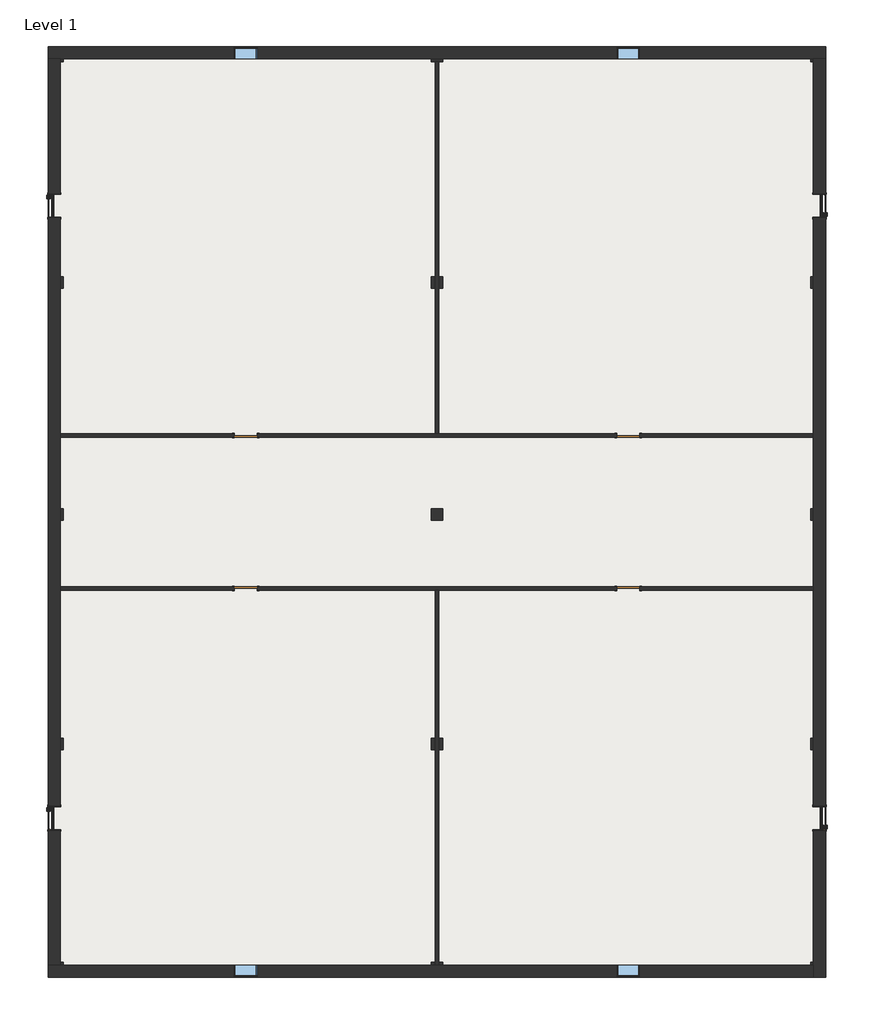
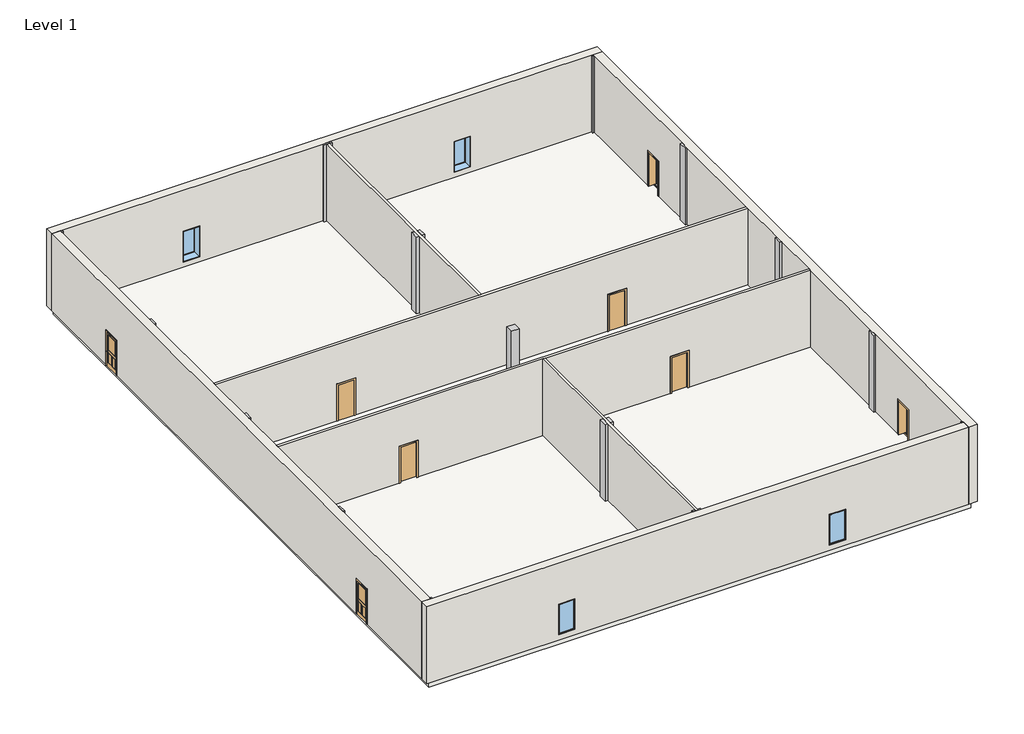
# One storey: 15 columns, 8 doors, 8 walls, 4 windows, 1 slab.
"""IFC4 building model written with IfcOpenShell, lengths in millimetres."""

from ifc_helpers import new_model, si_unit, frame, origin, origin_with_axes, place, context, project, spatial, polyline, outline, extrude, faceted_brep, transform, mapped, element, save
from components import column_01934044, door_9a8c5ecc, door_c6edcd30, window_ebccf9a6

model = new_model("IFC4")

# Units and contexts
model_context = context("Model", 3, world=origin())
ifc_project = project(units=[si_unit("LENGTHUNIT", "METRE", prefix="MILLI")], contexts=[model_context])

# Site, building, storey
site = spatial("IfcSite", under=ifc_project)
building = spatial("IfcBuilding", under=site)
storey = spatial("IfcBuildingStorey", under=building, Name="Level 1", Elevation=0.0)

# Columns
placement = place(None, origin())
element("IfcColumn", 1, ObjectType="Rectangular Column : 18\" x 18\"", at=placement, inside=storey, context=model_context, shape_type="SweptSolid", body=[
    extrude(outline(polyline([(-14834.4974435, 17225.7425957), (-14834.4974435, 17117.7925957), (-14942.4474435, 17117.7925957), (-14942.4474435, 17225.7425957), (-14834.4974435, 17225.7425957)])), origin_with_axes(), (0.0, 0.0, 1.0), 4572.0),
])
element("IfcColumn", 2, ObjectType="Rectangular Column : 18\" x 18\"", at=placement, inside=storey, context=model_context, shape_type="SweptSolid", body=[
    extrude(outline(polyline([(14934.3025565, 17117.7925957), (14934.3025565, 17225.7425957), (15042.2525565, 17225.7425957), (15042.2525565, 17117.7925957), (14934.3025565, 17117.7925957)])), origin_with_axes(), (0.0, 0.0, 1.0), 4572.0),
])
element("IfcColumn", 3, ObjectType="Rectangular Column : 18\" x 18\"", at=placement, inside=storey, context=model_context, shape_type="Brep", body=[
    faceted_brep([(-178.6974435, 17117.7925957, 4572.0), (-19.9474435, 17117.7925957, 4572.0), (119.7525565, 17117.7925957, 4572.0), (278.5025565, 17117.7925957, 4572.0), (278.5025565, 17225.7425957, 4572.0), (-178.6974435, 17225.7425957, 4572.0), (278.5025565, 17117.7925957, 0.0), (119.7525565, 17117.7925957, 0.0), (-19.9474435, 17117.7925957, 0.0), (-178.6974435, 17117.7925957, 0.0), (-178.6974435, 17225.7425957, 0.0), (278.5025565, 17225.7425957, 0.0)], [[[0, 1, 2, 3, 4, 5]], [[6, 7, 8, 9, 10, 11]], [[9, 0, 5, 10]], [[3, 2, 1, 0, 9, 8, 7, 6]], [[3, 6, 11, 4]], [[5, 4, 11, 10]]]),
])
element("IfcColumn", 4, ObjectType="Rectangular Column : 18\" x 18\"", at=placement, inside=storey, context=model_context, shape_type="SweptSolid", body=[
    extrude(outline(polyline([(-14834.4974435, -18747.0074043), (-14834.4974435, -18854.9574043), (-14942.4474435, -18854.9574043), (-14942.4474435, -18747.0074043), (-14834.4974435, -18747.0074043)])), origin_with_axes(), (0.0, 0.0, 1.0), 4572.0),
])
element("IfcColumn", 5, ObjectType="Rectangular Column : 18\" x 18\"", at=placement, inside=storey, context=model_context, shape_type="SweptSolid", body=[
    extrude(outline(polyline([(14934.3025565, -18747.0074043), (15042.2525565, -18747.0074043), (15042.2525565, -18854.9574043), (14934.3025565, -18854.9574043), (14934.3025565, -18747.0074043)])), origin_with_axes(), (0.0, 0.0, 1.0), 4572.0),
])
element("IfcColumn", 6, ObjectType="Rectangular Column : 18\" x 18\"", at=placement, inside=storey, context=model_context, shape_type="SweptSolid", body=[
    extrude(outline(polyline([(278.5025565, -18747.0074043), (278.5025565, -18854.9574043), (119.7525565, -18854.9574043), (119.7525565, -18747.0074043), (278.5025565, -18747.0074043)])), origin_with_axes(), (0.0, 0.0, 1.0), 4572.0),
    extrude(outline(polyline([(-178.6974435, -18854.9574043), (-178.6974435, -18747.0074043), (-19.9474435, -18747.0074043), (-19.9474435, -18854.9574043), (-178.6974435, -18854.9574043)])), origin_with_axes(), (0.0, 0.0, 1.0), 4572.0),
])
element("IfcColumn", 7, ObjectType="Rectangular Column : 18\" x 18\"", at=placement, inside=storey, context=model_context, shape_type="SweptSolid", body=[
    extrude(outline(polyline([(278.5025565, 8557.9925957), (278.5025565, 8100.7925957), (119.7525565, 8100.7925957), (119.7525565, 8557.9925957), (278.5025565, 8557.9925957)])), origin_with_axes(), (0.0, 0.0, 1.0), 4572.0),
    extrude(outline(polyline([(-178.6974435, 8100.7925957), (-178.6974435, 8557.9925957), (-19.9474435, 8557.9925957), (-19.9474435, 8100.7925957), (-178.6974435, 8100.7925957)])), origin_with_axes(), (0.0, 0.0, 1.0), 4572.0),
])
element("IfcColumn", 8, ObjectType="Rectangular Column : 18\" x 18\"", at=placement, inside=storey, context=model_context, shape_type="SweptSolid", body=[
    extrude(outline(polyline([(278.5025565, -9831.6074043), (278.5025565, -10288.8074043), (119.7525565, -10288.8074043), (119.7525565, -9831.6074043), (278.5025565, -9831.6074043)])), origin_with_axes(), (0.0, 0.0, 1.0), 4572.0),
    extrude(outline(polyline([(-178.6974435, -10288.8074043), (-178.6974435, -9831.6074043), (-19.9474435, -9831.6074043), (-19.9474435, -10288.8074043), (-178.6974435, -10288.8074043)])), origin_with_axes(), (0.0, 0.0, 1.0), 4572.0),
])
element("IfcColumn", 9, ObjectType="Rectangular Column : 18\" x 18\"", at=placement, inside=storey, context=model_context, shape_type="SweptSolid", body=[
    extrude(outline(polyline([(14934.3025565, -10288.8074043), (14934.3025565, -9831.6074043), (15042.2525565, -9831.6074043), (15042.2525565, -10288.8074043), (14934.3025565, -10288.8074043)])), origin_with_axes(), (0.0, 0.0, 1.0), 4572.0),
])
element("IfcColumn", 10, ObjectType="Rectangular Column : 18\" x 18\"", at=placement, inside=storey, context=model_context, shape_type="SweptSolid", body=[
    extrude(outline(polyline([(-14834.4974435, -9831.6074043), (-14834.4974435, -10288.8074043), (-14942.4474435, -10288.8074043), (-14942.4474435, -9831.6074043), (-14834.4974435, -9831.6074043)])), origin_with_axes(), (0.0, 0.0, 1.0), 4572.0),
])
element("IfcColumn", 11, ObjectType="Rectangular Column : 18\" x 18\"", at=placement, inside=storey, context=model_context, shape_type="SweptSolid", body=[
    extrude(outline(polyline([(-14834.4974435, -687.6074043), (-14834.4974435, -1144.8074043), (-14942.4474435, -1144.8074043), (-14942.4474435, -687.6074043), (-14834.4974435, -687.6074043)])), origin_with_axes(), (0.0, 0.0, 1.0), 4572.0),
])
element("IfcColumn", 12, ObjectType="Rectangular Column : 18\" x 18\"", at=placement, inside=storey, context=model_context, shape_type="SweptSolid", body=[
    extrude(outline(polyline([(-14834.4974435, 8557.9925957), (-14834.4974435, 8100.7925957), (-14942.4474435, 8100.7925957), (-14942.4474435, 8557.9925957), (-14834.4974435, 8557.9925957)])), origin_with_axes(), (0.0, 0.0, 1.0), 4572.0),
])
element("IfcColumn", 13, ObjectType="Rectangular Column : 18\" x 18\"", at=placement, inside=storey, context=model_context, shape_type="SweptSolid", body=[
    extrude(outline(polyline([(14934.3025565, 8100.7925957), (14934.3025565, 8557.9925957), (15042.2525565, 8557.9925957), (15042.2525565, 8100.7925957), (14934.3025565, 8100.7925957)])), origin_with_axes(), (0.0, 0.0, 1.0), 4572.0),
])
element("IfcColumn", 14, ObjectType="Rectangular Column : 18\" x 18\"", at=placement, inside=storey, context=model_context, shape_type="SweptSolid", body=[
    extrude(outline(polyline([(14934.3025565, -1144.8074043), (14934.3025565, -687.6074043), (15042.2525565, -687.6074043), (15042.2525565, -1144.8074043), (14934.3025565, -1144.8074043)])), origin_with_axes(), (0.0, 0.0, 1.0), 4572.0),
])
column_shape = column_01934044(model_context)
element("IfcColumn", 15, ObjectType="Rectangular Column : 18\" x 18\"", at=placement, inside=storey, context=model_context, shape_type="MappedRepresentation", body=[
    mapped(column_shape, transform((49.9025565, -916.2074043, 0.0), x_axis=(1.0, 0.0, 0.0), y_axis=(0.0, 1.0, 0.0), z_axis=(0.0, 0.0, 1.0))),
])

# Doors
door_shape = door_9a8c5ecc(model_context)
element("IfcDoor", 16, ObjectType="Door-Exterior-Single-Entry-Half Flat Glass-Wood_Clad : 36\" x 80\"", at=placement, inside=storey, context=model_context, shape_type="MappedRepresentation", body=[
    mapped(door_shape, transform((15293.0775565, -13006.6074043, 0.0), x_axis=(0.0, -1.0, 0.0), y_axis=(1.0, 0.0, 0.0), z_axis=(0.0, 0.0, 1.0))),
])
element("IfcDoor", 17, ObjectType="Door-Exterior-Single-Entry-Half Flat Glass-Wood_Clad : 36\" x 80\"", at=placement, inside=storey, context=model_context, shape_type="MappedRepresentation", body=[
    mapped(door_shape, transform((-15193.2724435, -13006.6074043, 0.0), x_axis=(0.0, 1.0, 0.0), y_axis=(-1.0, 0.0, 0.0), z_axis=(0.0, 0.0, 1.0))),
])
element("IfcDoor", 18, ObjectType="Door-Exterior-Single-Entry-Half Flat Glass-Wood_Clad : 36\" x 80\"", at=placement, inside=storey, context=model_context, shape_type="MappedRepresentation", body=[
    mapped(door_shape, transform((15293.0775565, 11377.3925957, 0.0), x_axis=(0.0, -1.0, 0.0), y_axis=(1.0, 0.0, 0.0), z_axis=(0.0, 0.0, 1.0))),
])
element("IfcDoor", 19, ObjectType="Door-Exterior-Single-Entry-Half Flat Glass-Wood_Clad : 36\" x 80\"", at=placement, inside=storey, context=model_context, shape_type="MappedRepresentation", body=[
    mapped(door_shape, transform((-15193.2724435, 11377.3925957, 0.0), x_axis=(0.0, 1.0, 0.0), y_axis=(-1.0, 0.0, 0.0), z_axis=(0.0, 0.0, 1.0))),
])
door_2_shape = door_c6edcd30(model_context)
element("IfcDoor", 20, ObjectType="Single-Flush : 36\" x 84\"", at=placement, inside=storey, context=model_context, shape_type="MappedRepresentation", body=[
    mapped(door_2_shape, transform((-7570.0974435, 2233.3925957, 0.0), x_axis=(-1.0, 0.0, 0.0), y_axis=(0.0, -1.0, 0.0), z_axis=(0.0, 0.0, 1.0))),
])
element("IfcDoor", 21, ObjectType="Single-Flush : 36\" x 84\"", at=placement, inside=storey, context=model_context, shape_type="MappedRepresentation", body=[
    mapped(door_2_shape, transform((7669.9025565, 2233.3925957, 0.0), x_axis=(-1.0, 0.0, 0.0), y_axis=(0.0, -1.0, 0.0), z_axis=(0.0, 0.0, 1.0))),
])
element("IfcDoor", 22, ObjectType="Single-Flush : 36\" x 84\"", at=placement, inside=storey, context=model_context, shape_type="MappedRepresentation", body=[
    mapped(door_2_shape, transform((-7570.0974435, -3862.6074043, 0.0), x_axis=(1.0, 0.0, 0.0), y_axis=(0.0, 1.0, 0.0), z_axis=(0.0, 0.0, 1.0))),
])
element("IfcDoor", 23, ObjectType="Single-Flush : 36\" x 84\"", at=placement, inside=storey, context=model_context, shape_type="MappedRepresentation", body=[
    mapped(door_2_shape, transform((7669.9025565, -3862.6074043, 0.0), x_axis=(1.0, 0.0, 0.0), y_axis=(0.0, 1.0, 0.0), z_axis=(0.0, 0.0, 1.0))),
])

# Slab
element("IfcSlab", 24, ObjectType="Steel Bar Joist 14\" - VCT on Concrete", at=placement, inside=storey, context=model_context, shape_type="SweptSolid", body=[
    extrude(outline(polyline([(15293.0775565, 17476.5675957), (15293.0775565, -19105.7824043), (-15193.2724435, -19105.7824043), (-15193.2724435, 17476.5675957), (15293.0775565, 17476.5675957)])), frame((0.0, 0.0, -441.325), z_axis=(0.0, 0.0, 1.0), x_axis=(1.0, 0.0, 0.0)), (0.0, 0.0, 1.0), 441.325),
])

# Walls
element("IfcWall", 25, ObjectType="Exterior - Brick on CMU", at=placement, inside=storey, context=model_context, shape_type="Brep", body=[
    faceted_brep([(-15437.7474435, 17225.7425957, 0.0), (-14942.4474435, 17225.7425957, 0.0), (-14834.4974435, 17225.7425957, 0.0), (-178.6974435, 17225.7425957, 0.0), (278.5025565, 17225.7425957, 0.0), (14934.3025565, 17225.7425957, 0.0), (15042.2525565, 17225.7425957, 0.0), (15537.5525565, 17225.7425957, 0.0), (15537.5525565, 17225.7425957, 4572.0), (15042.2525565, 17225.7425957, 4572.0), (14934.3025565, 17225.7425957, 4572.0), (278.5025565, 17225.7425957, 4572.0), (-178.6974435, 17225.7425957, 4572.0), (-14834.4974435, 17225.7425957, 4572.0), (-14942.4474435, 17225.7425957, 4572.0), (-15437.7474435, 17225.7425957, 4572.0), (-7112.8974435, 17225.7425957, 2133.6), (-7112.8974435, 17225.7425957, 304.8), (-8027.2974435, 17225.7425957, 304.8), (-8027.2974435, 17225.7425957, 2133.6), (8127.1025565, 17225.7425957, 2133.6), (8127.1025565, 17225.7425957, 304.8), (7212.7025565, 17225.7425957, 304.8), (7212.7025565, 17225.7425957, 2133.6), (-15437.7474435, 17721.0425957, 0.0), (-15437.7474435, 17721.0425957, 4572.0), (15537.5525565, 17721.0425957, 4572.0), (15537.5525565, 17721.0425957, 0.0), (-7112.8974435, 17721.0425957, 2133.6), (-8027.2974435, 17721.0425957, 2133.6), (-8027.2974435, 17721.0425957, 304.8), (-7112.8974435, 17721.0425957, 304.8), (8127.1025565, 17721.0425957, 2133.6), (7212.7025565, 17721.0425957, 2133.6), (7212.7025565, 17721.0425957, 304.8), (8127.1025565, 17721.0425957, 304.8)], [[[0, 1, 2, 3, 4, 5, 6, 7, 8, 9, 10, 11, 12, 13, 14, 15], [16, 17, 18, 19], [20, 21, 22, 23]], [[24, 25, 26, 27], [28, 29, 30, 31], [32, 33, 34, 35]], [[7, 6, 5, 4, 3, 2, 1, 0, 24, 27]], [[8, 7, 27, 26]], [[0, 15, 25, 24]], [[17, 16, 28, 31]], [[18, 17, 31, 30]], [[19, 18, 30, 29]], [[16, 19, 29, 28]], [[21, 20, 32, 35]], [[22, 21, 35, 34]], [[23, 22, 34, 33]], [[20, 23, 33, 32]], [[15, 14, 13, 12, 11, 10, 9, 8, 26, 25]]]),
])
element("IfcWall", 26, ObjectType="Exterior - Brick on CMU", at=placement, inside=storey, context=model_context, shape_type="Brep", body=[
    faceted_brep([(15042.2525565, 17225.7425957, 4572.0), (15042.2525565, 17225.7425957, 0.0), (15042.2525565, 17117.7925957, 0.0), (15042.2525565, 11859.9925957, 0.0), (15042.2525565, 11859.9925957, 2057.4), (15042.2525565, 10894.7925957, 2057.4), (15042.2525565, 10894.7925957, 0.0), (15042.2525565, 8557.9925957, 0.0), (15042.2525565, 8100.7925957, 0.0), (15042.2525565, 2303.2425957, 0.0), (15042.2525565, 2163.5425957, 0.0), (15042.2525565, -687.6074043, 0.0), (15042.2525565, -1144.8074043, 0.0), (15042.2525565, -3792.7574043, 0.0), (15042.2525565, -3932.4574043, 0.0), (15042.2525565, -9831.6074043, 0.0), (15042.2525565, -10288.8074043, 0.0), (15042.2525565, -12524.0074043, 0.0), (15042.2525565, -12524.0074043, 2057.4), (15042.2525565, -13489.2074043, 2057.4), (15042.2525565, -13489.2074043, 0.0), (15042.2525565, -18747.0074043, 0.0), (15042.2525565, -18854.9574043, 0.0), (15042.2525565, -19350.2574043, 0.0), (15042.2525565, -19350.2574043, 4572.0), (15042.2525565, -18854.9574043, 4572.0), (15042.2525565, -18747.0074043, 4572.0), (15042.2525565, -10288.8074043, 4572.0), (15042.2525565, -9831.6074043, 4572.0), (15042.2525565, -3932.4574043, 4572.0), (15042.2525565, -3792.7574043, 4572.0), (15042.2525565, -1144.8074043, 4572.0), (15042.2525565, -687.6074043, 4572.0), (15042.2525565, 2163.5425957, 4572.0), (15042.2525565, 2303.2425957, 4572.0), (15042.2525565, 8100.7925957, 4572.0), (15042.2525565, 8557.9925957, 4572.0), (15042.2525565, 17117.7925957, 4572.0), (15537.5525565, 17225.7425957, 0.0), (15537.5525565, 17225.7425957, 4572.0), (15537.5525565, -19350.2574043, 4572.0), (15537.5525565, -19350.2574043, 0.0), (15537.5525565, -13489.2074043, 0.0), (15537.5525565, -13489.2074043, 2057.4), (15537.5525565, -12524.0074043, 2057.4), (15537.5525565, -12524.0074043, 0.0), (15537.5525565, 10894.7925957, 0.0), (15537.5525565, 10894.7925957, 2057.4), (15537.5525565, 11859.9925957, 2057.4), (15537.5525565, 11859.9925957, 0.0)], [[[0, 1, 2, 3, 4, 5, 6, 7, 8, 9, 10, 11, 12, 13, 14, 15, 16, 17, 18, 19, 20, 21, 22, 23, 24, 25, 26, 27, 28, 29, 30, 31, 32, 33, 34, 35, 36, 37]], [[38, 39, 40, 41, 42, 43, 44, 45, 46, 47, 48, 49]], [[1, 38, 49, 3, 2]], [[41, 23, 22, 21, 20, 42]], [[45, 17, 16, 15, 14, 13, 12, 11, 10, 9, 8, 7, 6, 46]], [[1, 0, 39, 38]], [[24, 23, 41, 40]], [[19, 43, 42, 20]], [[43, 19, 18, 44]], [[44, 18, 17, 45]], [[5, 47, 46, 6]], [[47, 5, 4, 48]], [[48, 4, 3, 49]], [[0, 37, 36, 35, 34, 33, 32, 31, 30, 29, 28, 27, 26, 25, 24, 40, 39]]]),
])
element("IfcWall", 27, ObjectType="Exterior - Brick on CMU", at=placement, inside=storey, context=model_context, shape_type="Brep", body=[
    faceted_brep([(15042.2525565, -18854.9574043, 0.0), (14934.3025565, -18854.9574043, 0.0), (278.5025565, -18854.9574043, 0.0), (119.7525565, -18854.9574043, 0.0), (-19.9474435, -18854.9574043, 0.0), (-178.6974435, -18854.9574043, 0.0), (-14834.4974435, -18854.9574043, 0.0), (-14942.4474435, -18854.9574043, 0.0), (-15437.7474435, -18854.9574043, 0.0), (-15437.7474435, -18854.9574043, 4572.0), (-14942.4474435, -18854.9574043, 4572.0), (-14834.4974435, -18854.9574043, 4572.0), (-178.6974435, -18854.9574043, 4572.0), (-19.9474435, -18854.9574043, 4572.0), (119.7525565, -18854.9574043, 4572.0), (278.5025565, -18854.9574043, 4572.0), (14934.3025565, -18854.9574043, 4572.0), (15042.2525565, -18854.9574043, 4572.0), (-8027.2974435, -18854.9574043, 2133.6), (-8027.2974435, -18854.9574043, 304.8), (-7112.8974435, -18854.9574043, 304.8), (-7112.8974435, -18854.9574043, 2133.6), (7212.7025565, -18854.9574043, 2133.6), (7212.7025565, -18854.9574043, 304.8), (8127.1025565, -18854.9574043, 304.8), (8127.1025565, -18854.9574043, 2133.6), (15042.2525565, -19350.2574043, 0.0), (15042.2525565, -19350.2574043, 4572.0), (-15437.7474435, -19350.2574043, 4572.0), (-15437.7474435, -19350.2574043, 0.0), (-8027.2974435, -19350.2574043, 2133.6), (-7112.8974435, -19350.2574043, 2133.6), (-7112.8974435, -19350.2574043, 304.8), (-8027.2974435, -19350.2574043, 304.8), (7212.7025565, -19350.2574043, 2133.6), (8127.1025565, -19350.2574043, 2133.6), (8127.1025565, -19350.2574043, 304.8), (7212.7025565, -19350.2574043, 304.8)], [[[0, 1, 2, 3, 4, 5, 6, 7, 8, 9, 10, 11, 12, 13, 14, 15, 16, 17], [18, 19, 20, 21], [22, 23, 24, 25]], [[26, 27, 28, 29], [30, 31, 32, 33], [34, 35, 36, 37]], [[8, 7, 6, 5, 4, 3, 2, 1, 0, 26, 29]], [[0, 17, 27, 26]], [[9, 8, 29, 28]], [[19, 18, 30, 33]], [[20, 19, 33, 32]], [[21, 20, 32, 31]], [[18, 21, 31, 30]], [[23, 22, 34, 37]], [[24, 23, 37, 36]], [[25, 24, 36, 35]], [[22, 25, 35, 34]], [[17, 16, 15, 14, 13, 12, 11, 10, 9, 28, 27]]]),
])
element("IfcWall", 28, ObjectType="Exterior - Brick on CMU", at=placement, inside=storey, context=model_context, shape_type="Brep", body=[
    faceted_brep([(-14942.4474435, 17225.7425957, 0.0), (-14942.4474435, 17225.7425957, 4572.0), (-14942.4474435, 17117.7925957, 4572.0), (-14942.4474435, 8557.9925957, 4572.0), (-14942.4474435, 8100.7925957, 4572.0), (-14942.4474435, 2303.2425957, 4572.0), (-14942.4474435, 2163.5425957, 4572.0), (-14942.4474435, -687.6074043, 4572.0), (-14942.4474435, -1144.8074043, 4572.0), (-14942.4474435, -3792.7574043, 4572.0), (-14942.4474435, -3932.4574043, 4572.0), (-14942.4474435, -9831.6074043, 4572.0), (-14942.4474435, -10288.8074043, 4572.0), (-14942.4474435, -18747.0074043, 4572.0), (-14942.4474435, -18854.9574043, 4572.0), (-14942.4474435, -18854.9574043, 0.0), (-14942.4474435, -18747.0074043, 0.0), (-14942.4474435, -13489.2074043, 0.0), (-14942.4474435, -13489.2074043, 2057.4), (-14942.4474435, -12524.0074043, 2057.4), (-14942.4474435, -12524.0074043, 0.0), (-14942.4474435, -10288.8074043, 0.0), (-14942.4474435, -9831.6074043, 0.0), (-14942.4474435, -3932.4574043, 0.0), (-14942.4474435, -3792.7574043, 0.0), (-14942.4474435, -1144.8074043, 0.0), (-14942.4474435, -687.6074043, 0.0), (-14942.4474435, 2163.5425957, 0.0), (-14942.4474435, 2303.2425957, 0.0), (-14942.4474435, 8100.7925957, 0.0), (-14942.4474435, 8557.9925957, 0.0), (-14942.4474435, 10894.7925957, 0.0), (-14942.4474435, 10894.7925957, 2057.4), (-14942.4474435, 11859.9925957, 2057.4), (-14942.4474435, 11859.9925957, 0.0), (-14942.4474435, 17117.7925957, 0.0), (-15437.7474435, 17225.7425957, 4572.0), (-15437.7474435, 17225.7425957, 0.0), (-15437.7474435, 11859.9925957, 0.0), (-15437.7474435, 11859.9925957, 2057.4), (-15437.7474435, 10894.7925957, 2057.4), (-15437.7474435, 10894.7925957, 0.0), (-15437.7474435, -12524.0074043, 0.0), (-15437.7474435, -12524.0074043, 2057.4), (-15437.7474435, -13489.2074043, 2057.4), (-15437.7474435, -13489.2074043, 0.0), (-15437.7474435, -18854.9574043, 0.0), (-15437.7474435, -18854.9574043, 4572.0)], [[[0, 1, 2, 3, 4, 5, 6, 7, 8, 9, 10, 11, 12, 13, 14, 15, 16, 17, 18, 19, 20, 21, 22, 23, 24, 25, 26, 27, 28, 29, 30, 31, 32, 33, 34, 35]], [[36, 37, 38, 39, 40, 41, 42, 43, 44, 45, 46, 47]], [[15, 46, 45, 17, 16]], [[37, 0, 35, 34, 38]], [[20, 42, 41, 31, 30, 29, 28, 27, 26, 25, 24, 23, 22, 21]], [[1, 0, 37, 36]], [[15, 14, 47, 46]], [[19, 43, 42, 20]], [[43, 19, 18, 44]], [[44, 18, 17, 45]], [[33, 39, 38, 34]], [[39, 33, 32, 40]], [[40, 32, 31, 41]], [[14, 13, 12, 11, 10, 9, 8, 7, 6, 5, 4, 3, 2, 1, 36, 47]]]),
])
element("IfcWall", 29, ObjectType="Interior - 5 1/2\" Partition (1-hr)", at=placement, inside=storey, context=model_context, shape_type="Brep", body=[
    faceted_brep([(8127.1025565, -3932.4574043, 2133.6), (8127.1025565, -3932.4574043, 0.0), (15042.2525565, -3932.4574043, 0.0), (15042.2525565, -3932.4574043, 4572.0), (119.7525565, -3932.4574043, 4572.0), (-19.9474435, -3932.4574043, 4572.0), (-14942.4474435, -3932.4574043, 4572.0), (-14942.4474435, -3932.4574043, 0.0), (-8027.2974435, -3932.4574043, 0.0), (-8027.2974435, -3932.4574043, 2133.6), (-7112.8974435, -3932.4574043, 2133.6), (-7112.8974435, -3932.4574043, 0.0), (-19.9474435, -3932.4574043, 0.0), (119.7525565, -3932.4574043, 0.0), (7212.7025565, -3932.4574043, 0.0), (7212.7025565, -3932.4574043, 2133.6), (15042.2525565, -3792.7574043, 0.0), (8127.1025565, -3792.7574043, 0.0), (8127.1025565, -3792.7574043, 2133.6), (7212.7025565, -3792.7574043, 2133.6), (7212.7025565, -3792.7574043, 0.0), (-7112.8974435, -3792.7574043, 0.0), (-7112.8974435, -3792.7574043, 2133.6), (-8027.2974435, -3792.7574043, 2133.6), (-8027.2974435, -3792.7574043, 0.0), (-14942.4474435, -3792.7574043, 0.0), (-14942.4474435, -3792.7574043, 4572.0), (15042.2525565, -3792.7574043, 4572.0)], [[[0, 1, 2, 3, 4, 5, 6, 7, 8, 9, 10, 11, 12, 13, 14, 15]], [[16, 17, 18, 19, 20, 21, 22, 23, 24, 25, 26, 27]], [[8, 7, 25, 24]], [[2, 1, 17, 16]], [[14, 13, 12, 11, 21, 20]], [[3, 2, 16, 27]], [[7, 6, 26, 25]], [[22, 21, 11, 10]], [[23, 22, 10, 9]], [[24, 23, 9, 8]], [[18, 17, 1, 0]], [[19, 18, 0, 15]], [[20, 19, 15, 14]], [[6, 5, 4, 3, 27, 26]]]),
])
element("IfcWall", 30, ObjectType="Interior - 5 1/2\" Partition (1-hr)", at=placement, inside=storey, context=model_context, shape_type="Brep", body=[
    faceted_brep([(-19.9474435, -3932.4574043, 0.0), (-19.9474435, -9831.6074043, 0.0), (-19.9474435, -10288.8074043, 0.0), (-19.9474435, -18747.0074043, 0.0), (-19.9474435, -18854.9574043, 0.0), (-19.9474435, -18854.9574043, 4572.0), (-19.9474435, -18747.0074043, 4572.0), (-19.9474435, -10288.8074043, 4572.0), (-19.9474435, -9831.6074043, 4572.0), (-19.9474435, -3932.4574043, 4572.0), (119.7525565, -3932.4574043, 0.0), (119.7525565, -3932.4574043, 4572.0), (119.7525565, -9831.6074043, 4572.0), (119.7525565, -10288.8074043, 4572.0), (119.7525565, -18747.0074043, 4572.0), (119.7525565, -18854.9574043, 4572.0), (119.7525565, -18854.9574043, 0.0), (119.7525565, -18747.0074043, 0.0), (119.7525565, -10288.8074043, 0.0), (119.7525565, -9831.6074043, 0.0)], [[[0, 1, 2, 3, 4, 5, 6, 7, 8, 9]], [[10, 11, 12, 13, 14, 15, 16, 17, 18, 19]], [[4, 3, 2, 1, 0, 10, 19, 18, 17, 16]], [[5, 4, 16, 15]], [[0, 9, 11, 10]], [[9, 8, 7, 6, 5, 15, 14, 13, 12, 11]]]),
])
element("IfcWall", 31, ObjectType="Interior - 5 1/2\" Partition (1-hr)", at=placement, inside=storey, context=model_context, shape_type="Brep", body=[
    faceted_brep([(-7112.8974435, 2163.5425957, 0.0), (7212.7025565, 2163.5425957, 0.0), (7212.7025565, 2163.5425957, 2133.6), (8127.1025565, 2163.5425957, 2133.6), (8127.1025565, 2163.5425957, 0.0), (15042.2525565, 2163.5425957, 0.0), (15042.2525565, 2163.5425957, 4572.0), (-14942.4474435, 2163.5425957, 4572.0), (-14942.4474435, 2163.5425957, 0.0), (-8027.2974435, 2163.5425957, 0.0), (-8027.2974435, 2163.5425957, 2133.6), (-7112.8974435, 2163.5425957, 2133.6), (7212.7025565, 2303.2425957, 2133.6), (7212.7025565, 2303.2425957, 0.0), (119.7525565, 2303.2425957, 0.0), (-19.9474435, 2303.2425957, 0.0), (-7112.8974435, 2303.2425957, 0.0), (-7112.8974435, 2303.2425957, 2133.6), (-8027.2974435, 2303.2425957, 2133.6), (-8027.2974435, 2303.2425957, 0.0), (-14942.4474435, 2303.2425957, 0.0), (-14942.4474435, 2303.2425957, 4572.0), (-19.9474435, 2303.2425957, 4572.0), (119.7525565, 2303.2425957, 4572.0), (15042.2525565, 2303.2425957, 4572.0), (15042.2525565, 2303.2425957, 0.0), (8127.1025565, 2303.2425957, 0.0), (8127.1025565, 2303.2425957, 2133.6)], [[[0, 1, 2, 3, 4, 5, 6, 7, 8, 9, 10, 11]], [[12, 13, 14, 15, 16, 17, 18, 19, 20, 21, 22, 23, 24, 25, 26, 27]], [[20, 19, 9, 8]], [[26, 25, 5, 4]], [[16, 15, 14, 13, 1, 0]], [[6, 5, 25, 24]], [[8, 7, 21, 20]], [[10, 9, 19, 18]], [[11, 10, 18, 17]], [[0, 11, 17, 16]], [[2, 1, 13, 12]], [[3, 2, 12, 27]], [[4, 3, 27, 26]], [[7, 6, 24, 23, 22, 21]]]),
])
element("IfcWall", 32, ObjectType="Interior - 5 1/2\" Partition (1-hr)", at=placement, inside=storey, context=model_context, shape_type="Brep", body=[
    faceted_brep([(119.7525565, 2303.2425957, 0.0), (119.7525565, 8100.7925957, 0.0), (119.7525565, 8557.9925957, 0.0), (119.7525565, 17117.7925957, 0.0), (119.7525565, 17117.7925957, 4572.0), (119.7525565, 8557.9925957, 4572.0), (119.7525565, 8100.7925957, 4572.0), (119.7525565, 2303.2425957, 4572.0), (-19.9474435, 2303.2425957, 0.0), (-19.9474435, 2303.2425957, 4572.0), (-19.9474435, 8100.7925957, 4572.0), (-19.9474435, 8557.9925957, 4572.0), (-19.9474435, 17117.7925957, 4572.0), (-19.9474435, 17117.7925957, 0.0), (-19.9474435, 8557.9925957, 0.0), (-19.9474435, 8100.7925957, 0.0)], [[[0, 1, 2, 3, 4, 5, 6, 7]], [[8, 9, 10, 11, 12, 13, 14, 15]], [[3, 2, 1, 0, 8, 15, 14, 13]], [[4, 3, 13, 12]], [[0, 7, 9, 8]], [[7, 6, 5, 4, 12, 11, 10, 9]]]),
])

# Windows
window_shape = window_ebccf9a6(model_context)
element("IfcWindow", 33, ObjectType="Fixed : 36\" x 72\"", at=placement, inside=storey, context=model_context, shape_type="MappedRepresentation", body=[
    mapped(window_shape, transform((-7608.1974435, -19102.6074043, 0.0), x_axis=(-1.0, 0.0, 0.0), y_axis=(0.0, -1.0, 0.0), z_axis=(0.0, 0.0, 1.0))),
])
element("IfcWindow", 34, ObjectType="Fixed : 36\" x 72\"", at=placement, inside=storey, context=model_context, shape_type="MappedRepresentation", body=[
    mapped(window_shape, transform((7631.8025565, -19102.6074043, 0.0), x_axis=(-1.0, 0.0, 0.0), y_axis=(0.0, -1.0, 0.0), z_axis=(0.0, 0.0, 1.0))),
])
element("IfcWindow", 35, ObjectType="Fixed : 36\" x 72\"", at=placement, inside=storey, context=model_context, shape_type="MappedRepresentation", body=[
    mapped(window_shape, transform((-7531.9974435, 17473.3925957, 0.0), x_axis=(1.0, 0.0, 0.0), y_axis=(0.0, 1.0, 0.0), z_axis=(0.0, 0.0, 1.0))),
])
element("IfcWindow", 36, ObjectType="Fixed : 36\" x 72\"", at=placement, inside=storey, context=model_context, shape_type="MappedRepresentation", body=[
    mapped(window_shape, transform((7708.0025565, 17473.3925957, 0.0), x_axis=(1.0, 0.0, 0.0), y_axis=(0.0, 1.0, 0.0), z_axis=(0.0, 0.0, 1.0))),
])

save(model, "model.ifc")
